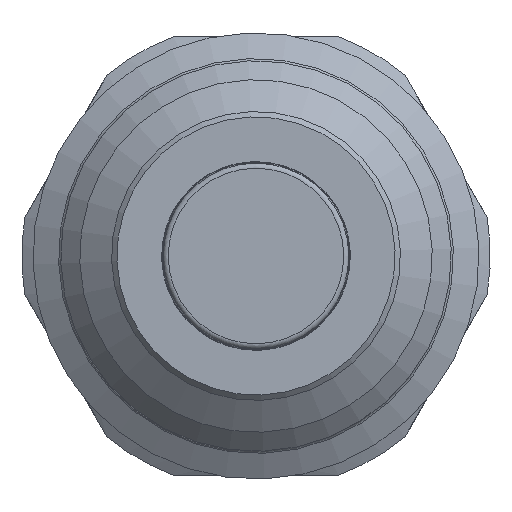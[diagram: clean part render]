
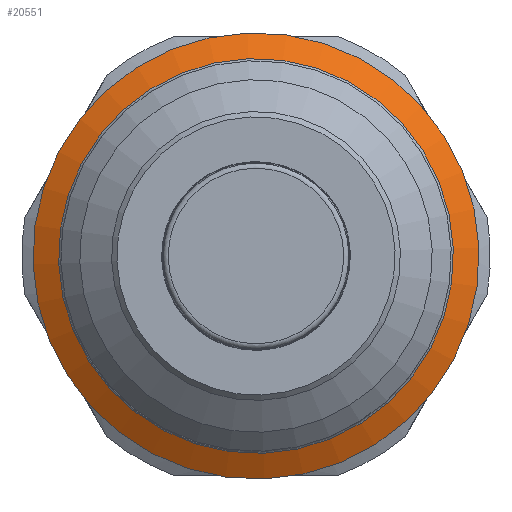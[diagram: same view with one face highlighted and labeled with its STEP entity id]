
A CAD part, front view. The second image highlights one B-rep face of the part: STEP entity #20551.
In plain terms, the highlighted conical face has half-angle 60 degrees and reference radius 19.55 mm.
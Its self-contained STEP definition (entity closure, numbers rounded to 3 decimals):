
#29=CONICAL_SURFACE('',#21584,19.55,1.047);
#2942=LINE('',#36425,#4139);
#4139=VECTOR('',#23623,19.55);
#6459=FACE_OUTER_BOUND('',#7568,.T.);
#7568=EDGE_LOOP('',(#17043,#17044,#17045,#17046,#17047));
#8311=CIRCLE('',#21567,20.85);
#8320=CIRCLE('',#21580,18.45);
#8321=CIRCLE('',#21581,18.45);
#9592=VERTEX_POINT('',#36392);
#9600=VERTEX_POINT('',#36415);
#9601=VERTEX_POINT('',#36417);
#12213=EDGE_CURVE('',#9592,#9592,#8311,.T.);
#12224=EDGE_CURVE('',#9600,#9601,#8320,.T.);
#12225=EDGE_CURVE('',#9601,#9600,#8321,.T.);
#12228=EDGE_CURVE('',#9592,#9601,#2942,.T.);
#17043=ORIENTED_EDGE('',*,*,#12213,.F.);
#17044=ORIENTED_EDGE('',*,*,#12228,.T.);
#17045=ORIENTED_EDGE('',*,*,#12224,.F.);
#17046=ORIENTED_EDGE('',*,*,#12225,.F.);
#17047=ORIENTED_EDGE('',*,*,#12228,.F.);
#20551=ADVANCED_FACE('',(#6459),#29,.T.);
#21567=AXIS2_PLACEMENT_3D('',#36394,#23584,#23585);
#21580=AXIS2_PLACEMENT_3D('',#36418,#23612,#23613);
#21581=AXIS2_PLACEMENT_3D('',#36419,#23614,#23615);
#21584=AXIS2_PLACEMENT_3D('',#36424,#23621,#23622);
#23584=DIRECTION('center_axis',(0.,1.,0.));
#23585=DIRECTION('ref_axis',(0.999,0.,0.038));
#23612=DIRECTION('center_axis',(0.,-1.,0.));
#23613=DIRECTION('ref_axis',(0.999,0.,0.038));
#23614=DIRECTION('center_axis',(0.,-1.,0.));
#23615=DIRECTION('ref_axis',(0.999,0.,0.038));
#23621=DIRECTION('center_axis',(0.,1.,0.));
#23622=DIRECTION('ref_axis',(-0.999,0.,-0.038));
#23623=DIRECTION('',(-0.865,-0.5,-0.033));
#36392=CARTESIAN_POINT('',(22.598,-29.488,1.517));
#36394=CARTESIAN_POINT('Origin',(1.763,-29.488,0.732));
#36415=CARTESIAN_POINT('',(2.458,-30.874,-17.705));
#36417=CARTESIAN_POINT('',(20.2,-30.874,1.427));
#36418=CARTESIAN_POINT('Origin',(1.763,-30.874,0.732));
#36419=CARTESIAN_POINT('Origin',(1.763,-30.874,0.732));
#36424=CARTESIAN_POINT('Origin',(1.763,-30.239,0.732));
#36425=CARTESIAN_POINT('',(21.299,-30.239,1.468));
